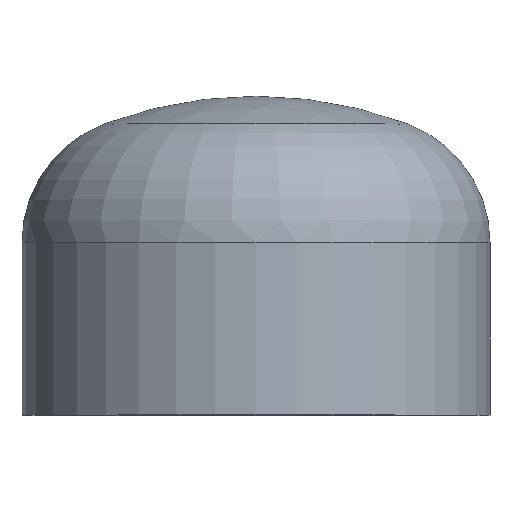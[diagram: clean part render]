
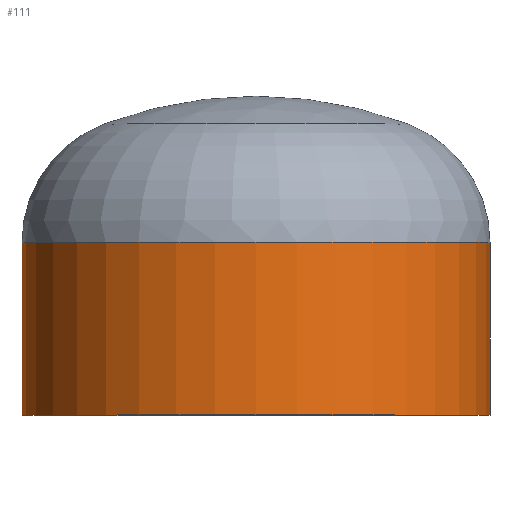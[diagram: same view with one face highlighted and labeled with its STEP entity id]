
A CAD part, top view. The second image highlights one B-rep face of the part: STEP entity #111.
In plain terms, the highlighted cylindrical face has radius 203.2 mm (diameter 406.4 mm), a partial arc.
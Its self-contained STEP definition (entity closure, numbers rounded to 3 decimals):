
#1 = VERTEX_POINT ( 'NONE', #150 ) ;
#5 = CARTESIAN_POINT ( 'NONE',  ( 0., 0., 0. ) ) ;
#18 = AXIS2_PLACEMENT_3D ( 'NONE', #207, #371, #232 ) ;
#32 = AXIS2_PLACEMENT_3D ( 'NONE', #5, #319, #389 ) ;
#50 = ORIENTED_EDGE ( 'NONE', *, *, #118, .F. ) ;
#54 = VERTEX_POINT ( 'NONE', #210 ) ;
#68 = AXIS2_PLACEMENT_3D ( 'NONE', #364, #223, #384 ) ;
#71 = CARTESIAN_POINT ( 'NONE',  ( 203.2, 0., 0. ) ) ;
#74 = EDGE_CURVE ( 'NONE', #54, #103, #411, .T. ) ;
#77 = EDGE_CURVE ( 'NONE', #103, #1, #235, .T. ) ;
#103 = VERTEX_POINT ( 'NONE', #290 ) ;
#107 = CYLINDRICAL_SURFACE ( 'NONE', #32, 203.2 ) ;
#111 = ADVANCED_FACE ( 'NONE', ( #333 ), #107, .T. ) ;
#118 = EDGE_CURVE ( 'NONE', #54, #131, #212, .T. ) ;
#131 = VERTEX_POINT ( 'NONE', #345 ) ;
#150 = CARTESIAN_POINT ( 'NONE',  ( -203.2, 0., 0. ) ) ;
#162 = DIRECTION ( 'NONE',  ( 0., -1., 0. ) ) ;
#166 = ORIENTED_EDGE ( 'NONE', *, *, #77, .T. ) ;
#181 = ORIENTED_EDGE ( 'NONE', *, *, #282, .F. ) ;
#188 = ORIENTED_EDGE ( 'NONE', *, *, #74, .T. ) ;
#193 = EDGE_LOOP ( 'NONE', ( #188, #166, #181, #50 ) ) ;
#196 = CIRCLE ( 'NONE', #18, 203.2 ) ;
#199 = CARTESIAN_POINT ( 'NONE',  ( -203.2, 0., 0. ) ) ;
#207 = CARTESIAN_POINT ( 'NONE',  ( 0., 0., 0. ) ) ;
#210 = CARTESIAN_POINT ( 'NONE',  ( 203.2, 150., 0. ) ) ;
#212 = LINE ( 'NONE', #71, #264 ) ;
#223 = DIRECTION ( 'NONE',  ( 0., -1., 0. ) ) ;
#232 = DIRECTION ( 'NONE',  ( 1., 0., 0. ) ) ;
#235 = LINE ( 'NONE', #199, #351 ) ;
#264 = VECTOR ( 'NONE', #320, 1000. ) ;
#282 = EDGE_CURVE ( 'NONE', #131, #1, #196, .T. ) ;
#290 = CARTESIAN_POINT ( 'NONE',  ( -203.2, 150., 0. ) ) ;
#319 = DIRECTION ( 'NONE',  ( 0., -1., 0. ) ) ;
#320 = DIRECTION ( 'NONE',  ( 0., -1., 0. ) ) ;
#333 = FACE_OUTER_BOUND ( 'NONE', #193, .T. ) ;
#345 = CARTESIAN_POINT ( 'NONE',  ( 203.2, 0., 0. ) ) ;
#351 = VECTOR ( 'NONE', #162, 1000. ) ;
#364 = CARTESIAN_POINT ( 'NONE',  ( 0., 150., 0. ) ) ;
#371 = DIRECTION ( 'NONE',  ( 0., -1., 0. ) ) ;
#384 = DIRECTION ( 'NONE',  ( 1., 0., 0. ) ) ;
#389 = DIRECTION ( 'NONE',  ( 1., 0., 0. ) ) ;
#411 = CIRCLE ( 'NONE', #68, 203.2 ) ;
